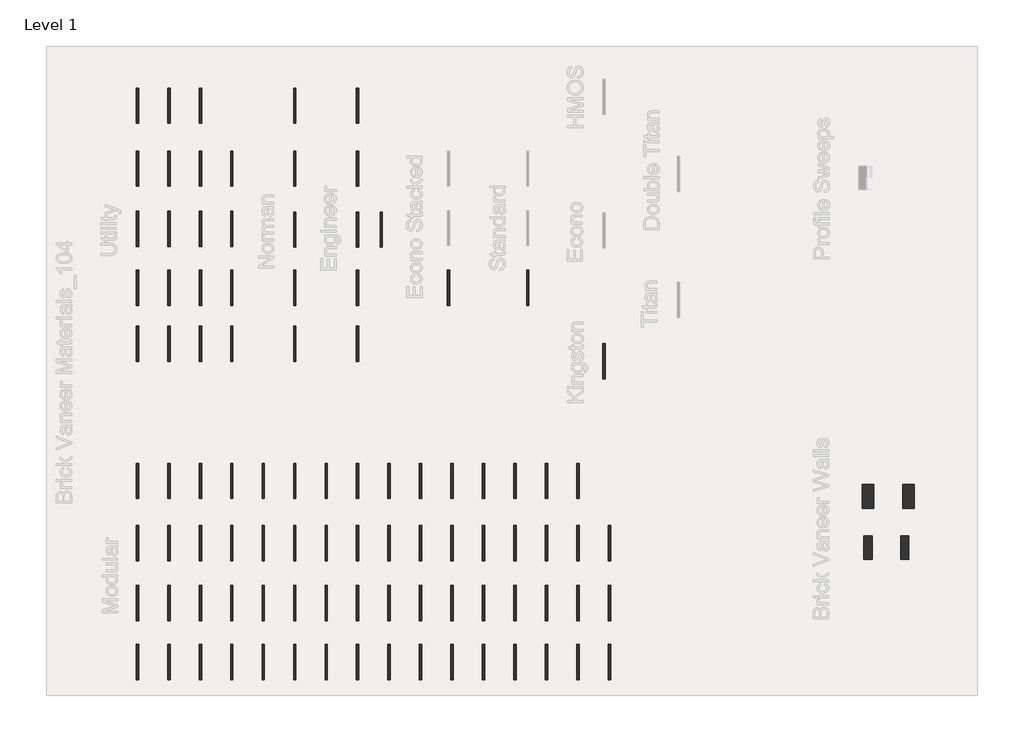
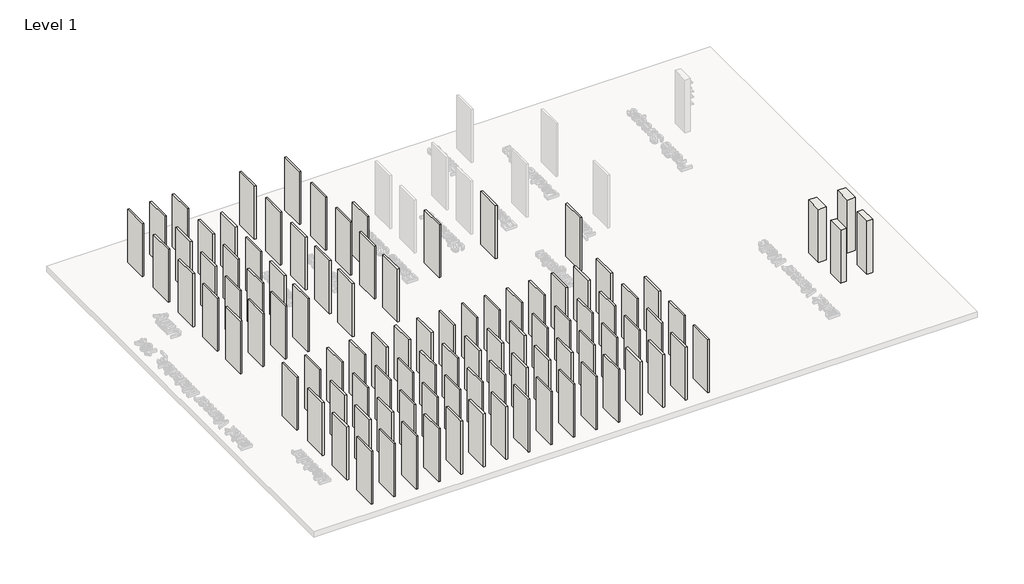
# One storey, part 1 of 6: 100 walls.
"""IFC4 building model written with IfcOpenShell, lengths in millimetres."""

from ifc_helpers import new_model, si_unit, origin, origin_with_axes, place, context, project, spatial, polyline, outline, extrude, element, save

model = new_model("IFC4")

# Units and contexts
model_context = context("Model", 3, world=origin())
ifc_project = project(units=[si_unit("LENGTHUNIT", "METRE", prefix="MILLI")], contexts=[model_context])

# Site, building, storey
site = spatial("IfcSite", under=ifc_project)
building = spatial("IfcBuilding", under=site)
storey = spatial("IfcBuildingStorey", under=building, Name="Level 1", Elevation=0.0)

# Walls
placement = place(None, origin())
element("IfcWall", 1, ObjectType="Exterior-Wall_Brick-Veneer_on_Concrete_Glen-Gery", at=placement, inside=storey, context=model_context, shape_type="SweptSolid", body=[
    extrude(outline(polyline([(18986.1248013, -4362.0258974), (18986.1248013, -5276.4258974), (18544.7998013, -5276.4258974), (18544.7998013, -4362.0258974), (18986.1248013, -4362.0258974)])), origin_with_axes(), (0.0, 0.0, 1.0), 3048.0),
])
element("IfcWall", 2, ObjectType="Exterior-Wall_Brick-Veneer_on_CMU_Glen-Gery", at=placement, inside=storey, context=model_context, shape_type="SweptSolid", body=[
    extrude(outline(polyline([(17411.2299021, -4362.0258974), (17411.2299021, -5276.4258974), (16969.9049021, -5276.4258974), (16969.9049021, -4362.0258974), (17411.2299021, -4362.0258974)])), origin_with_axes(), (0.0, 0.0, 1.0), 3048.0),
])
element("IfcWall", 3, ObjectType="Exterior-Wall_Brick-Veneer_on_Metal-Stud_Glen-Gery", at=placement, inside=storey, context=model_context, shape_type="SweptSolid", body=[
    extrude(outline(polyline([(18780.032706, -6343.2258974), (18780.032706, -7257.6258974), (18465.707706, -7257.6258974), (18465.707706, -6343.2258974), (18780.032706, -6343.2258974)])), origin_with_axes(), (0.0, 0.0, 1.0), 3048.0),
])
element("IfcWall", 4, ObjectType="Exterior-Wall_Brick-Veneer_on_Wood-Stud_Glen-Gery", at=placement, inside=storey, context=model_context, shape_type="SweptSolid", body=[
    extrude(outline(polyline([(17347.7299021, -6343.2258974), (17347.7299021, -7257.6258974), (17033.4049021, -7257.6258974), (17033.4049021, -6343.2258974), (17347.7299021, -6343.2258974)])), origin_with_axes(), (0.0, 0.0, 1.0), 3048.0),
])
element("IfcWall", 5, ObjectType="Generic - 3 5/8\" 1", at=placement, inside=storey, context=model_context, shape_type="SweptSolid", body=[
    extrude(outline(polyline([(-11159.9757609, -11921.7943894), (-11159.9757609, -10550.1943894), (-11067.9007609, -10550.1943894), (-11067.9007609, -11921.7943894), (-11159.9757609, -11921.7943894)])), origin_with_axes(), (0.0, 0.0, 1.0), 3048.0),
])
element("IfcWall", 6, ObjectType="Generic - 3 5/8\" 10", at=placement, inside=storey, context=model_context, shape_type="SweptSolid", body=[
    extrude(outline(polyline([(-11159.9757609, 2580.0524443), (-11159.9757609, 3951.6524443), (-11067.9007609, 3951.6524443), (-11067.9007609, 2580.0524443), (-11159.9757609, 2580.0524443)])), origin_with_axes(), (0.0, 0.0, 1.0), 3048.0),
])
element("IfcWall", 7, ObjectType="Generic - 3 5/8\" 100", at=placement, inside=storey, context=model_context, shape_type="SweptSolid", body=[
    extrude(outline(polyline([(-1406.3757609, -4905.9825564), (-1406.3757609, -3534.3825564), (-1314.3007609, -3534.3825564), (-1314.3007609, -4905.9825564), (-1406.3757609, -4905.9825564)])), origin_with_axes(), (0.0, 0.0, 1.0), 3048.0),
])
element("IfcWall", 8, ObjectType="Generic - 3 5/8\" 101", at=placement, inside=storey, context=model_context, shape_type="SweptSolid", body=[
    extrude(outline(polyline([(7128.0242391, -11921.7943894), (7128.0242391, -10550.1943894), (7220.0992391, -10550.1943894), (7220.0992391, -11921.7943894), (7128.0242391, -11921.7943894)])), origin_with_axes(), (0.0, 0.0, 1.0), 3048.0),
])
element("IfcWall", 9, ObjectType="Generic - 3 5/8\" 104", at=placement, inside=storey, context=model_context, shape_type="SweptSolid", body=[
    extrude(outline(polyline([(-1711.1757609, 4838.455309), (-1711.1757609, 6210.055309), (-1619.1007609, 6210.055309), (-1619.1007609, 4838.455309), (-1711.1757609, 4838.455309)])), origin_with_axes(), (0.0, 0.0, 1.0), 3048.0),
])
element("IfcWall", 10, ObjectType="Generic - 3 5/8\" 105", at=placement, inside=storey, context=model_context, shape_type="SweptSolid", body=[
    extrude(outline(polyline([(7128.0242391, -9635.7943894), (7128.0242391, -8264.1943894), (7220.0992391, -8264.1943894), (7220.0992391, -9635.7943894), (7128.0242391, -9635.7943894)])), origin_with_axes(), (0.0, 0.0, 1.0), 3048.0),
])
element("IfcWall", 11, ObjectType="Generic - 3 5/8\" 106", at=placement, inside=storey, context=model_context, shape_type="SweptSolid", body=[
    extrude(outline(polyline([(-1406.3757609, -11921.7943894), (-1406.3757609, -10550.1943894), (-1314.3007609, -10550.1943894), (-1314.3007609, -11921.7943894), (-1406.3757609, -11921.7943894)])), origin_with_axes(), (0.0, 0.0, 1.0), 3048.0),
])
element("IfcWall", 12, ObjectType="Generic - 3 5/8\" 107", at=placement, inside=storey, context=model_context, shape_type="SweptSolid", body=[
    extrude(outline(polyline([(7220.0992391, -5951.3215347), (7220.0992391, -7322.9215347), (7128.0242391, -7322.9215347), (7128.0242391, -5951.3215347), (7220.0992391, -5951.3215347)])), origin_with_axes(), (0.0, 0.0, 1.0), 3048.0),
])
element("IfcWall", 13, ObjectType="Generic - 3 5/8\" 11", at=placement, inside=storey, context=model_context, shape_type="SweptSolid", body=[
    extrude(outline(polyline([(-11159.9757609, -4905.9825564), (-11159.9757609, -3534.3825564), (-11067.9007609, -3534.3825564), (-11067.9007609, -4905.9825564), (-11159.9757609, -4905.9825564)])), origin_with_axes(), (0.0, 0.0, 1.0), 3048.0),
])
element("IfcWall", 14, ObjectType="Generic - 3 5/8\" 12", at=placement, inside=storey, context=model_context, shape_type="SweptSolid", body=[
    extrude(outline(polyline([(-187.1757609, -11921.7943894), (-187.1757609, -10550.1943894), (-95.1007609, -10550.1943894), (-95.1007609, -11921.7943894), (-187.1757609, -11921.7943894)])), origin_with_axes(), (0.0, 0.0, 1.0), 3048.0),
])
element("IfcWall", 15, ObjectType="Generic - 3 5/8\" 13", at=placement, inside=storey, context=model_context, shape_type="SweptSolid", body=[
    extrude(outline(polyline([(-187.1757609, -9635.7943894), (-187.1757609, -8264.1943894), (-95.1007609, -8264.1943894), (-95.1007609, -9635.7943894), (-187.1757609, -9635.7943894)])), origin_with_axes(), (0.0, 0.0, 1.0), 3048.0),
])
element("IfcWall", 16, ObjectType="Generic - 3 5/8\" 14", at=placement, inside=storey, context=model_context, shape_type="SweptSolid", body=[
    extrude(outline(polyline([(-187.1757609, -7322.9215347), (-187.1757609, -5951.3215347), (-95.1007609, -5951.3215347), (-95.1007609, -7322.9215347), (-187.1757609, -7322.9215347)])), origin_with_axes(), (0.0, 0.0, 1.0), 3048.0),
])
element("IfcWall", 17, ObjectType="Generic - 3 5/8\" 15", at=placement, inside=storey, context=model_context, shape_type="SweptSolid", body=[
    extrude(outline(polyline([(-9940.7757609, -11921.7943894), (-9940.7757609, -10550.1943894), (-9848.7007609, -10550.1943894), (-9848.7007609, -11921.7943894), (-9940.7757609, -11921.7943894)])), origin_with_axes(), (0.0, 0.0, 1.0), 3048.0),
])
element("IfcWall", 18, ObjectType="Generic - 3 5/8\" 16", at=placement, inside=storey, context=model_context, shape_type="SweptSolid", body=[
    extrude(outline(polyline([(-9940.7757609, -9635.7943894), (-9940.7757609, -8264.1943894), (-9848.7007609, -8264.1943894), (-9848.7007609, -9635.7943894), (-9940.7757609, -9635.7943894)])), origin_with_axes(), (0.0, 0.0, 1.0), 3048.0),
])
element("IfcWall", 19, ObjectType="Generic - 3 5/8\" 17", at=placement, inside=storey, context=model_context, shape_type="SweptSolid", body=[
    extrude(outline(polyline([(-9940.7757609, -7322.9215347), (-9940.7757609, -5951.3215347), (-9848.7007609, -5951.3215347), (-9848.7007609, -7322.9215347), (-9940.7757609, -7322.9215347)])), origin_with_axes(), (0.0, 0.0, 1.0), 3048.0),
])
element("IfcWall", 20, ObjectType="Generic - 3 5/8\" 19", at=placement, inside=storey, context=model_context, shape_type="SweptSolid", body=[
    extrude(outline(polyline([(-11159.9757609, 4866.0524443), (-11159.9757609, 6237.6524443), (-11067.9007609, 6237.6524443), (-11067.9007609, 4866.0524443), (-11159.9757609, 4866.0524443)])), origin_with_axes(), (0.0, 0.0, 1.0), 3048.0),
])
element("IfcWall", 21, ObjectType="Generic - 3 5/8\" 20", at=placement, inside=storey, context=model_context, shape_type="SweptSolid", body=[
    extrude(outline(polyline([(-11159.9757609, 7202.8524443), (-11159.9757609, 8574.4524443), (-11067.9007609, 8574.4524443), (-11067.9007609, 7202.8524443), (-11159.9757609, 7202.8524443)])), origin_with_axes(), (0.0, 0.0, 1.0), 3048.0),
])
element("IfcWall", 22, ObjectType="Generic - 3 5/8\" 21", at=placement, inside=storey, context=model_context, shape_type="SweptSolid", body=[
    extrude(outline(polyline([(-9940.7757609, -4905.9825564), (-9940.7757609, -3534.3825564), (-9848.7007609, -3534.3825564), (-9848.7007609, -4905.9825564), (-9940.7757609, -4905.9825564)])), origin_with_axes(), (0.0, 0.0, 1.0), 3048.0),
])
element("IfcWall", 23, ObjectType="Generic - 3 5/8\" 22", at=placement, inside=storey, context=model_context, shape_type="SweptSolid", body=[
    extrude(outline(polyline([(-11159.9757609, 9641.2524443), (-11159.9757609, 11012.8524443), (-11067.9007609, 11012.8524443), (-11067.9007609, 9641.2524443), (-11159.9757609, 9641.2524443)])), origin_with_axes(), (0.0, 0.0, 1.0), 3048.0),
])
element("IfcWall", 24, ObjectType="Generic - 3 5/8\" 23", at=placement, inside=storey, context=model_context, shape_type="SweptSolid", body=[
    extrude(outline(polyline([(-187.1757609, -4905.9825564), (-187.1757609, -3534.3825564), (-95.1007609, -3534.3825564), (-95.1007609, -4905.9825564), (-187.1757609, -4905.9825564)])), origin_with_axes(), (0.0, 0.0, 1.0), 3048.0),
])
element("IfcWall", 25, ObjectType="Generic - 3 5/8\" 24", at=placement, inside=storey, context=model_context, shape_type="SweptSolid", body=[
    extrude(outline(polyline([(1032.0242391, -11921.7943894), (1032.0242391, -10550.1943894), (1124.0992391, -10550.1943894), (1124.0992391, -11921.7943894), (1032.0242391, -11921.7943894)])), origin_with_axes(), (0.0, 0.0, 1.0), 3048.0),
])
element("IfcWall", 26, ObjectType="Generic - 3 5/8\" 25", at=placement, inside=storey, context=model_context, shape_type="SweptSolid", body=[
    extrude(outline(polyline([(-9940.7757609, 406.4082086), (-9940.7757609, 1778.0082086), (-9848.7007609, 1778.0082086), (-9848.7007609, 406.4082086), (-9940.7757609, 406.4082086)])), origin_with_axes(), (0.0, 0.0, 1.0), 3048.0),
])
element("IfcWall", 27, ObjectType="Generic - 3 5/8\" 28", at=placement, inside=storey, context=model_context, shape_type="SweptSolid", body=[
    extrude(outline(polyline([(1032.0242391, -9635.7943894), (1032.0242391, -8264.1943894), (1124.0992391, -8264.1943894), (1124.0992391, -9635.7943894), (1032.0242391, -9635.7943894)])), origin_with_axes(), (0.0, 0.0, 1.0), 3048.0),
])
element("IfcWall", 28, ObjectType="Generic - 3 5/8\" 29", at=placement, inside=storey, context=model_context, shape_type="SweptSolid", body=[
    extrude(outline(polyline([(-5063.9757609, 2580.0524443), (-5063.9757609, 3951.6524443), (-4971.9007609, 3951.6524443), (-4971.9007609, 2580.0524443), (-5063.9757609, 2580.0524443)])), origin_with_axes(), (0.0, 0.0, 1.0), 3048.0),
])
element("IfcWall", 29, ObjectType="Generic - 3 5/8\" 3", at=placement, inside=storey, context=model_context, shape_type="SweptSolid", body=[
    extrude(outline(polyline([(3963.9464389, 2580.0524443), (3963.9464389, 3951.6524443), (4056.0214389, 3951.6524443), (4056.0214389, 2580.0524443), (3963.9464389, 2580.0524443)])), origin_with_axes(), (0.0, 0.0, 1.0), 3048.0),
])
element("IfcWall", 30, ObjectType="Generic - 3 5/8\" 30", at=placement, inside=storey, context=model_context, shape_type="SweptSolid", body=[
    extrude(outline(polyline([(-8721.5757609, -11921.7943894), (-8721.5757609, -10550.1943894), (-8629.5007609, -10550.1943894), (-8629.5007609, -11921.7943894), (-8721.5757609, -11921.7943894)])), origin_with_axes(), (0.0, 0.0, 1.0), 3048.0),
])
element("IfcWall", 31, ObjectType="Generic - 3 5/8\" 31", at=placement, inside=storey, context=model_context, shape_type="SweptSolid", body=[
    extrude(outline(polyline([(-8721.5757609, -9635.7943894), (-8721.5757609, -8264.1943894), (-8629.5007609, -8264.1943894), (-8629.5007609, -9635.7943894), (-8721.5757609, -9635.7943894)])), origin_with_axes(), (0.0, 0.0, 1.0), 3048.0),
])
element("IfcWall", 32, ObjectType="Generic - 3 5/8\" 32", at=placement, inside=storey, context=model_context, shape_type="SweptSolid", body=[
    extrude(outline(polyline([(-8721.5757609, -7322.9215347), (-8721.5757609, -5951.3215347), (-8629.5007609, -5951.3215347), (-8629.5007609, -7322.9215347), (-8721.5757609, -7322.9215347)])), origin_with_axes(), (0.0, 0.0, 1.0), 3048.0),
])
element("IfcWall", 33, ObjectType="Generic - 3 5/8\" 33", at=placement, inside=storey, context=model_context, shape_type="SweptSolid", body=[
    extrude(outline(polyline([(-5063.9757609, 4838.455309), (-5063.9757609, 6210.055309), (-4971.9007609, 6210.055309), (-4971.9007609, 4838.455309), (-5063.9757609, 4838.455309)])), origin_with_axes(), (0.0, 0.0, 1.0), 3048.0),
])
element("IfcWall", 34, ObjectType="Generic - 3 5/8\" 34", at=placement, inside=storey, context=model_context, shape_type="SweptSolid", body=[
    extrude(outline(polyline([(-5063.9757609, 7202.8524443), (-5063.9757609, 8574.4524443), (-4971.9007609, 8574.4524443), (-4971.9007609, 7202.8524443), (-5063.9757609, 7202.8524443)])), origin_with_axes(), (0.0, 0.0, 1.0), 3048.0),
])
element("IfcWall", 35, ObjectType="Generic - 3 5/8\" 35", at=placement, inside=storey, context=model_context, shape_type="SweptSolid", body=[
    extrude(outline(polyline([(-8721.5757609, -4905.9825564), (-8721.5757609, -3534.3825564), (-8629.5007609, -3534.3825564), (-8629.5007609, -4905.9825564), (-8721.5757609, -4905.9825564)])), origin_with_axes(), (0.0, 0.0, 1.0), 3048.0),
])
element("IfcWall", 36, ObjectType="Generic - 3 5/8\" 36", at=placement, inside=storey, context=model_context, shape_type="SweptSolid", body=[
    extrude(outline(polyline([(1032.0242391, -7322.9215347), (1032.0242391, -5951.3215347), (1124.0992391, -5951.3215347), (1124.0992391, -7322.9215347), (1032.0242391, -7322.9215347)])), origin_with_axes(), (0.0, 0.0, 1.0), 3048.0),
])
element("IfcWall", 37, ObjectType="Generic - 3 5/8\" 37", at=placement, inside=storey, context=model_context, shape_type="SweptSolid", body=[
    extrude(outline(polyline([(-9940.7757609, 2580.0524443), (-9940.7757609, 3951.6524443), (-9848.7007609, 3951.6524443), (-9848.7007609, 2580.0524443), (-9940.7757609, 2580.0524443)])), origin_with_axes(), (0.0, 0.0, 1.0), 3048.0),
])
element("IfcWall", 38, ObjectType="Generic - 3 5/8\" 38", at=placement, inside=storey, context=model_context, shape_type="SweptSolid", body=[
    extrude(outline(polyline([(1032.0242391, -4905.9825564), (1032.0242391, -3534.3825564), (1124.0992391, -3534.3825564), (1124.0992391, -4905.9825564), (1032.0242391, -4905.9825564)])), origin_with_axes(), (0.0, 0.0, 1.0), 3048.0),
])
element("IfcWall", 39, ObjectType="Generic - 3 5/8\" 39", at=placement, inside=storey, context=model_context, shape_type="SweptSolid", body=[
    extrude(outline(polyline([(-9940.7757609, 4866.0524443), (-9940.7757609, 6237.6524443), (-9848.7007609, 6237.6524443), (-9848.7007609, 4866.0524443), (-9940.7757609, 4866.0524443)])), origin_with_axes(), (0.0, 0.0, 1.0), 3048.0),
])
element("IfcWall", 40, ObjectType="Generic - 3 5/8\" 4", at=placement, inside=storey, context=model_context, shape_type="SweptSolid", body=[
    extrude(outline(polyline([(-5063.9757609, 406.4082086), (-5063.9757609, 1778.0082086), (-4971.9007609, 1778.0082086), (-4971.9007609, 406.4082086), (-5063.9757609, 406.4082086)])), origin_with_axes(), (0.0, 0.0, 1.0), 3048.0),
])
element("IfcWall", 41, ObjectType="Generic - 3 5/8\" 40", at=placement, inside=storey, context=model_context, shape_type="SweptSolid", body=[
    extrude(outline(polyline([(2251.2242391, -11921.7943894), (2251.2242391, -10550.1943894), (2343.2992391, -10550.1943894), (2343.2992391, -11921.7943894), (2251.2242391, -11921.7943894)])), origin_with_axes(), (0.0, 0.0, 1.0), 3048.0),
])
element("IfcWall", 42, ObjectType="Generic - 3 5/8\" 41", at=placement, inside=storey, context=model_context, shape_type="SweptSolid", body=[
    extrude(outline(polyline([(-7502.3757609, -7322.9215347), (-7502.3757609, -5951.3215347), (-7410.3007609, -5951.3215347), (-7410.3007609, -7322.9215347), (-7502.3757609, -7322.9215347)])), origin_with_axes(), (0.0, 0.0, 1.0), 3048.0),
])
element("IfcWall", 43, ObjectType="Generic - 3 5/8\" 42", at=placement, inside=storey, context=model_context, shape_type="SweptSolid", body=[
    extrude(outline(polyline([(-2625.5757609, 406.4082086), (-2625.5757609, 1778.0082086), (-2533.5007609, 1778.0082086), (-2533.5007609, 406.4082086), (-2625.5757609, 406.4082086)])), origin_with_axes(), (0.0, 0.0, 1.0), 3048.0),
])
element("IfcWall", 44, ObjectType="Generic - 3 5/8\" 43", at=placement, inside=storey, context=model_context, shape_type="SweptSolid", body=[
    extrude(outline(polyline([(-2625.5757609, 2580.0524443), (-2625.5757609, 3951.6524443), (-2533.5007609, 3951.6524443), (-2533.5007609, 2580.0524443), (-2625.5757609, 2580.0524443)])), origin_with_axes(), (0.0, 0.0, 1.0), 3048.0),
])
element("IfcWall", 45, ObjectType="Generic - 3 5/8\" 46", at=placement, inside=storey, context=model_context, shape_type="SweptSolid", body=[
    extrude(outline(polyline([(-7502.3757609, -11921.7943894), (-7502.3757609, -10550.1943894), (-7410.3007609, -10550.1943894), (-7410.3007609, -11921.7943894), (-7502.3757609, -11921.7943894)])), origin_with_axes(), (0.0, 0.0, 1.0), 3048.0),
])
element("IfcWall", 46, ObjectType="Generic - 3 5/8\" 47", at=placement, inside=storey, context=model_context, shape_type="SweptSolid", body=[
    extrude(outline(polyline([(-5063.9757609, 9641.2524443), (-5063.9757609, 11012.8524443), (-4971.9007609, 11012.8524443), (-4971.9007609, 9641.2524443), (-5063.9757609, 9641.2524443)])), origin_with_axes(), (0.0, 0.0, 1.0), 3048.0),
])
element("IfcWall", 47, ObjectType="Generic - 3 5/8\" 48", at=placement, inside=storey, context=model_context, shape_type="SweptSolid", body=[
    extrude(outline(polyline([(-7502.3757609, -9635.7943894), (-7502.3757609, -8264.1943894), (-7410.3007609, -8264.1943894), (-7410.3007609, -9635.7943894), (-7502.3757609, -9635.7943894)])), origin_with_axes(), (0.0, 0.0, 1.0), 3048.0),
])
element("IfcWall", 48, ObjectType="Generic - 3 5/8\" 49", at=placement, inside=storey, context=model_context, shape_type="SweptSolid", body=[
    extrude(outline(polyline([(-7502.3757609, -4905.9825564), (-7502.3757609, -3534.3825564), (-7410.3007609, -3534.3825564), (-7410.3007609, -4905.9825564), (-7502.3757609, -4905.9825564)])), origin_with_axes(), (0.0, 0.0, 1.0), 3048.0),
])
element("IfcWall", 49, ObjectType="Generic - 3 5/8\" 5", at=placement, inside=storey, context=model_context, shape_type="SweptSolid", body=[
    extrude(outline(polyline([(897.9646667, 2580.0524443), (897.9646667, 3951.6524443), (990.0396667, 3951.6524443), (990.0396667, 2580.0524443), (897.9646667, 2580.0524443)])), origin_with_axes(), (0.0, 0.0, 1.0), 3048.0),
])
element("IfcWall", 50, ObjectType="Generic - 3 5/8\" 50", at=placement, inside=storey, context=model_context, shape_type="SweptSolid", body=[
    extrude(outline(polyline([(2251.2242391, -9635.7943894), (2251.2242391, -8264.1943894), (2343.2992391, -8264.1943894), (2343.2992391, -9635.7943894), (2251.2242391, -9635.7943894)])), origin_with_axes(), (0.0, 0.0, 1.0), 3048.0),
])
element("IfcWall", 51, ObjectType="Generic - 3 5/8\" 51", at=placement, inside=storey, context=model_context, shape_type="SweptSolid", body=[
    extrude(outline(polyline([(6924.8242391, -271.4806422), (6924.8242391, 1100.1193578), (7016.8992391, 1100.1193578), (7016.8992391, -271.4806422), (6924.8242391, -271.4806422)])), origin_with_axes(), (0.0, 0.0, 1.0), 3048.0),
])
element("IfcWall", 52, ObjectType="Generic - 3 5/8\" 52", at=placement, inside=storey, context=model_context, shape_type="SweptSolid", body=[
    extrude(outline(polyline([(-9940.7757609, 7202.8524443), (-9940.7757609, 8574.4524443), (-9848.7007609, 8574.4524443), (-9848.7007609, 7202.8524443), (-9940.7757609, 7202.8524443)])), origin_with_axes(), (0.0, 0.0, 1.0), 3048.0),
])
element("IfcWall", 53, ObjectType="Generic - 3 5/8\" 53", at=placement, inside=storey, context=model_context, shape_type="SweptSolid", body=[
    extrude(outline(polyline([(2251.2242391, -7322.9215347), (2251.2242391, -5951.3215347), (2343.2992391, -5951.3215347), (2343.2992391, -7322.9215347), (2251.2242391, -7322.9215347)])), origin_with_axes(), (0.0, 0.0, 1.0), 3048.0),
])
element("IfcWall", 54, ObjectType="Generic - 3 5/8\" 54", at=placement, inside=storey, context=model_context, shape_type="SweptSolid", body=[
    extrude(outline(polyline([(2251.2242391, -4905.9825564), (2251.2242391, -3534.3825564), (2343.2992391, -3534.3825564), (2343.2992391, -4905.9825564), (2251.2242391, -4905.9825564)])), origin_with_axes(), (0.0, 0.0, 1.0), 3048.0),
])
element("IfcWall", 55, ObjectType="Generic - 3 5/8\" 55", at=placement, inside=storey, context=model_context, shape_type="SweptSolid", body=[
    extrude(outline(polyline([(-6283.1757609, -7322.9215347), (-6283.1757609, -5951.3215347), (-6191.1007609, -5951.3215347), (-6191.1007609, -7322.9215347), (-6283.1757609, -7322.9215347)])), origin_with_axes(), (0.0, 0.0, 1.0), 3048.0),
])
element("IfcWall", 56, ObjectType="Generic - 3 5/8\" 56", at=placement, inside=storey, context=model_context, shape_type="SweptSolid", body=[
    extrude(outline(polyline([(-6283.1757609, -4905.9825564), (-6283.1757609, -3534.3825564), (-6191.1007609, -3534.3825564), (-6191.1007609, -4905.9825564), (-6283.1757609, -4905.9825564)])), origin_with_axes(), (0.0, 0.0, 1.0), 3048.0),
])
element("IfcWall", 57, ObjectType="Generic - 3 5/8\" 57", at=placement, inside=storey, context=model_context, shape_type="SweptSolid", body=[
    extrude(outline(polyline([(-9940.7757609, 9641.2524443), (-9940.7757609, 11012.8524443), (-9848.7007609, 11012.8524443), (-9848.7007609, 9641.2524443), (-9940.7757609, 9641.2524443)])), origin_with_axes(), (0.0, 0.0, 1.0), 3048.0),
])
element("IfcWall", 58, ObjectType="Generic - 3 5/8\" 58", at=placement, inside=storey, context=model_context, shape_type="SweptSolid", body=[
    extrude(outline(polyline([(-6283.1757609, -11921.7943894), (-6283.1757609, -10550.1943894), (-6191.1007609, -10550.1943894), (-6191.1007609, -11921.7943894), (-6283.1757609, -11921.7943894)])), origin_with_axes(), (0.0, 0.0, 1.0), 3048.0),
])
element("IfcWall", 59, ObjectType="Generic - 3 5/8\" 59", at=placement, inside=storey, context=model_context, shape_type="SweptSolid", body=[
    extrude(outline(polyline([(-6283.1757609, -9635.7943894), (-6283.1757609, -8264.1943894), (-6191.1007609, -8264.1943894), (-6191.1007609, -9635.7943894), (-6283.1757609, -9635.7943894)])), origin_with_axes(), (0.0, 0.0, 1.0), 3048.0),
])
element("IfcWall", 60, ObjectType="Generic - 3 5/8\" 6", at=placement, inside=storey, context=model_context, shape_type="SweptSolid", body=[
    extrude(outline(polyline([(-11159.9757609, -9635.7943894), (-11159.9757609, -8264.1943894), (-11067.9007609, -8264.1943894), (-11067.9007609, -9635.7943894), (-11159.9757609, -9635.7943894)])), origin_with_axes(), (0.0, 0.0, 1.0), 3048.0),
])
element("IfcWall", 61, ObjectType="Generic - 3 5/8\" 60", at=placement, inside=storey, context=model_context, shape_type="SweptSolid", body=[
    extrude(outline(polyline([(3470.4242391, -11921.7943894), (3470.4242391, -10550.1943894), (3562.4992391, -10550.1943894), (3562.4992391, -11921.7943894), (3470.4242391, -11921.7943894)])), origin_with_axes(), (0.0, 0.0, 1.0), 3048.0),
])
element("IfcWall", 62, ObjectType="Generic - 3 5/8\" 61", at=placement, inside=storey, context=model_context, shape_type="SweptSolid", body=[
    extrude(outline(polyline([(3470.4242391, -9635.7943894), (3470.4242391, -8264.1943894), (3562.4992391, -8264.1943894), (3562.4992391, -9635.7943894), (3470.4242391, -9635.7943894)])), origin_with_axes(), (0.0, 0.0, 1.0), 3048.0),
])
element("IfcWall", 63, ObjectType="Generic - 3 5/8\" 62", at=placement, inside=storey, context=model_context, shape_type="SweptSolid", body=[
    extrude(outline(polyline([(3470.4242391, -4905.9825564), (3470.4242391, -3534.3825564), (3562.4992391, -3534.3825564), (3562.4992391, -4905.9825564), (3470.4242391, -4905.9825564)])), origin_with_axes(), (0.0, 0.0, 1.0), 3048.0),
])
element("IfcWall", 64, ObjectType="Generic - 3 5/8\" 63", at=placement, inside=storey, context=model_context, shape_type="SweptSolid", body=[
    extrude(outline(polyline([(-5063.9757609, -9635.7943894), (-5063.9757609, -8264.1943894), (-4971.9007609, -8264.1943894), (-4971.9007609, -9635.7943894), (-5063.9757609, -9635.7943894)])), origin_with_axes(), (0.0, 0.0, 1.0), 3048.0),
])
element("IfcWall", 65, ObjectType="Generic - 3 5/8\" 65", at=placement, inside=storey, context=model_context, shape_type="SweptSolid", body=[
    extrude(outline(polyline([(-5063.9757609, -7322.9215347), (-5063.9757609, -5951.3215347), (-4971.9007609, -5951.3215347), (-4971.9007609, -7322.9215347), (-5063.9757609, -7322.9215347)])), origin_with_axes(), (0.0, 0.0, 1.0), 3048.0),
])
element("IfcWall", 66, ObjectType="Generic - 3 5/8\" 66", at=placement, inside=storey, context=model_context, shape_type="SweptSolid", body=[
    extrude(outline(polyline([(-5063.9757609, -4905.9825564), (-5063.9757609, -3534.3825564), (-4971.9007609, -3534.3825564), (-4971.9007609, -4905.9825564), (-5063.9757609, -4905.9825564)])), origin_with_axes(), (0.0, 0.0, 1.0), 3048.0),
])
element("IfcWall", 67, ObjectType="Generic - 3 5/8\" 67", at=placement, inside=storey, context=model_context, shape_type="SweptSolid", body=[
    extrude(outline(polyline([(3470.4242391, -7322.9215347), (3470.4242391, -5951.3215347), (3562.4992391, -5951.3215347), (3562.4992391, -7322.9215347), (3470.4242391, -7322.9215347)])), origin_with_axes(), (0.0, 0.0, 1.0), 3048.0),
])
element("IfcWall", 68, ObjectType="Generic - 3 5/8\" 68", at=placement, inside=storey, context=model_context, shape_type="SweptSolid", body=[
    extrude(outline(polyline([(-5063.9757609, -11921.7943894), (-5063.9757609, -10550.1943894), (-4971.9007609, -10550.1943894), (-4971.9007609, -11921.7943894), (-5063.9757609, -11921.7943894)])), origin_with_axes(), (0.0, 0.0, 1.0), 3048.0),
])
element("IfcWall", 69, ObjectType="Generic - 3 5/8\" 69", at=placement, inside=storey, context=model_context, shape_type="SweptSolid", body=[
    extrude(outline(polyline([(-8721.5757609, 406.4082086), (-8721.5757609, 1778.0082086), (-8629.5007609, 1778.0082086), (-8629.5007609, 406.4082086), (-8721.5757609, 406.4082086)])), origin_with_axes(), (0.0, 0.0, 1.0), 3048.0),
])
element("IfcWall", 70, ObjectType="Generic - 3 5/8\" 7", at=placement, inside=storey, context=model_context, shape_type="SweptSolid", body=[
    extrude(outline(polyline([(-11159.9757609, 406.4082086), (-11159.9757609, 1778.0082086), (-11067.9007609, 1778.0082086), (-11067.9007609, 406.4082086), (-11159.9757609, 406.4082086)])), origin_with_axes(), (0.0, 0.0, 1.0), 3048.0),
])
element("IfcWall", 71, ObjectType="Generic - 3 5/8\" 70", at=placement, inside=storey, context=model_context, shape_type="SweptSolid", body=[
    extrude(outline(polyline([(-8721.5757609, 2580.0524443), (-8721.5757609, 3951.6524443), (-8629.5007609, 3951.6524443), (-8629.5007609, 2580.0524443), (-8721.5757609, 2580.0524443)])), origin_with_axes(), (0.0, 0.0, 1.0), 3048.0),
])
element("IfcWall", 72, ObjectType="Generic - 3 5/8\" 71", at=placement, inside=storey, context=model_context, shape_type="SweptSolid", body=[
    extrude(outline(polyline([(4689.6242391, -11921.7943894), (4689.6242391, -10550.1943894), (4781.6992391, -10550.1943894), (4781.6992391, -11921.7943894), (4689.6242391, -11921.7943894)])), origin_with_axes(), (0.0, 0.0, 1.0), 3048.0),
])
element("IfcWall", 73, ObjectType="Generic - 3 5/8\" 72", at=placement, inside=storey, context=model_context, shape_type="SweptSolid", body=[
    extrude(outline(polyline([(4689.6242391, -9635.7943894), (4689.6242391, -8264.1943894), (4781.6992391, -8264.1943894), (4781.6992391, -9635.7943894), (4689.6242391, -9635.7943894)])), origin_with_axes(), (0.0, 0.0, 1.0), 3048.0),
])
element("IfcWall", 74, ObjectType="Generic - 3 5/8\" 73", at=placement, inside=storey, context=model_context, shape_type="SweptSolid", body=[
    extrude(outline(polyline([(-3844.7757609, -9635.7943894), (-3844.7757609, -8264.1943894), (-3752.7007609, -8264.1943894), (-3752.7007609, -9635.7943894), (-3844.7757609, -9635.7943894)])), origin_with_axes(), (0.0, 0.0, 1.0), 3048.0),
])
element("IfcWall", 75, ObjectType="Generic - 3 5/8\" 74", at=placement, inside=storey, context=model_context, shape_type="SweptSolid", body=[
    extrude(outline(polyline([(-8721.5757609, 4866.0524443), (-8721.5757609, 6237.6524443), (-8629.5007609, 6237.6524443), (-8629.5007609, 4866.0524443), (-8721.5757609, 4866.0524443)])), origin_with_axes(), (0.0, 0.0, 1.0), 3048.0),
])
element("IfcWall", 76, ObjectType="Generic - 3 5/8\" 75", at=placement, inside=storey, context=model_context, shape_type="SweptSolid", body=[
    extrude(outline(polyline([(-2625.5757609, 4838.455309), (-2625.5757609, 6210.055309), (-2533.5007609, 6210.055309), (-2533.5007609, 4838.455309), (-2625.5757609, 4838.455309)])), origin_with_axes(), (0.0, 0.0, 1.0), 3048.0),
])
element("IfcWall", 77, ObjectType="Generic - 3 5/8\" 76", at=placement, inside=storey, context=model_context, shape_type="SweptSolid", body=[
    extrude(outline(polyline([(-8721.5757609, 7202.8524443), (-8721.5757609, 8574.4524443), (-8629.5007609, 8574.4524443), (-8629.5007609, 7202.8524443), (-8721.5757609, 7202.8524443)])), origin_with_axes(), (0.0, 0.0, 1.0), 3048.0),
])
element("IfcWall", 78, ObjectType="Generic - 3 5/8\" 77", at=placement, inside=storey, context=model_context, shape_type="SweptSolid", body=[
    extrude(outline(polyline([(-3844.7757609, -7322.9215347), (-3844.7757609, -5951.3215347), (-3752.7007609, -5951.3215347), (-3752.7007609, -7322.9215347), (-3844.7757609, -7322.9215347)])), origin_with_axes(), (0.0, 0.0, 1.0), 3048.0),
])
element("IfcWall", 79, ObjectType="Generic - 3 5/8\" 78", at=placement, inside=storey, context=model_context, shape_type="SweptSolid", body=[
    extrude(outline(polyline([(-2625.5757609, 7202.8524443), (-2625.5757609, 8574.4524443), (-2533.5007609, 8574.4524443), (-2533.5007609, 7202.8524443), (-2625.5757609, 7202.8524443)])), origin_with_axes(), (0.0, 0.0, 1.0), 3048.0),
])
element("IfcWall", 80, ObjectType="Generic - 3 5/8\" 79", at=placement, inside=storey, context=model_context, shape_type="SweptSolid", body=[
    extrude(outline(polyline([(-2625.5757609, 9641.2524443), (-2625.5757609, 11012.8524443), (-2533.5007609, 11012.8524443), (-2533.5007609, 9641.2524443), (-2625.5757609, 9641.2524443)])), origin_with_axes(), (0.0, 0.0, 1.0), 3048.0),
])
element("IfcWall", 81, ObjectType="Generic - 3 5/8\" 80", at=placement, inside=storey, context=model_context, shape_type="SweptSolid", body=[
    extrude(outline(polyline([(-8721.5757609, 9641.2524443), (-8721.5757609, 11012.8524443), (-8629.5007609, 11012.8524443), (-8629.5007609, 9641.2524443), (-8721.5757609, 9641.2524443)])), origin_with_axes(), (0.0, 0.0, 1.0), 3048.0),
])
element("IfcWall", 82, ObjectType="Generic - 3 5/8\" 81", at=placement, inside=storey, context=model_context, shape_type="SweptSolid", body=[
    extrude(outline(polyline([(-3844.7757609, -4905.9825564), (-3844.7757609, -3534.3825564), (-3752.7007609, -3534.3825564), (-3752.7007609, -4905.9825564), (-3844.7757609, -4905.9825564)])), origin_with_axes(), (0.0, 0.0, 1.0), 3048.0),
])
element("IfcWall", 83, ObjectType="Generic - 3 5/8\" 82", at=placement, inside=storey, context=model_context, shape_type="SweptSolid", body=[
    extrude(outline(polyline([(4689.6242391, -7322.9215347), (4689.6242391, -5951.3215347), (4781.6992391, -5951.3215347), (4781.6992391, -7322.9215347), (4689.6242391, -7322.9215347)])), origin_with_axes(), (0.0, 0.0, 1.0), 3048.0),
])
element("IfcWall", 84, ObjectType="Generic - 3 5/8\" 83", at=placement, inside=storey, context=model_context, shape_type="SweptSolid", body=[
    extrude(outline(polyline([(-7502.3757609, 406.4082086), (-7502.3757609, 1778.0082086), (-7410.3007609, 1778.0082086), (-7410.3007609, 406.4082086), (-7502.3757609, 406.4082086)])), origin_with_axes(), (0.0, 0.0, 1.0), 3048.0),
])
element("IfcWall", 85, ObjectType="Generic - 3 5/8\" 84", at=placement, inside=storey, context=model_context, shape_type="SweptSolid", body=[
    extrude(outline(polyline([(-7502.3757609, 2580.0524443), (-7502.3757609, 3951.6524443), (-7410.3007609, 3951.6524443), (-7410.3007609, 2580.0524443), (-7502.3757609, 2580.0524443)])), origin_with_axes(), (0.0, 0.0, 1.0), 3048.0),
])
element("IfcWall", 86, ObjectType="Generic - 3 5/8\" 85", at=placement, inside=storey, context=model_context, shape_type="SweptSolid", body=[
    extrude(outline(polyline([(-7502.3757609, 4866.0524443), (-7502.3757609, 6237.6524443), (-7410.3007609, 6237.6524443), (-7410.3007609, 4866.0524443), (-7502.3757609, 4866.0524443)])), origin_with_axes(), (0.0, 0.0, 1.0), 3048.0),
])
element("IfcWall", 87, ObjectType="Generic - 3 5/8\" 86", at=placement, inside=storey, context=model_context, shape_type="SweptSolid", body=[
    extrude(outline(polyline([(4689.6242391, -4905.9825564), (4689.6242391, -3534.3825564), (4781.6992391, -3534.3825564), (4781.6992391, -4905.9825564), (4689.6242391, -4905.9825564)])), origin_with_axes(), (0.0, 0.0, 1.0), 3048.0),
])
element("IfcWall", 88, ObjectType="Generic - 3 5/8\" 87", at=placement, inside=storey, context=model_context, shape_type="SweptSolid", body=[
    extrude(outline(polyline([(-3844.7757609, -11921.7943894), (-3844.7757609, -10550.1943894), (-3752.7007609, -10550.1943894), (-3752.7007609, -11921.7943894), (-3844.7757609, -11921.7943894)])), origin_with_axes(), (0.0, 0.0, 1.0), 3048.0),
])
element("IfcWall", 89, ObjectType="Generic - 3 5/8\" 88", at=placement, inside=storey, context=model_context, shape_type="SweptSolid", body=[
    extrude(outline(polyline([(5908.8242391, -11921.7943894), (5908.8242391, -10550.1943894), (6000.8992391, -10550.1943894), (6000.8992391, -11921.7943894), (5908.8242391, -11921.7943894)])), origin_with_axes(), (0.0, 0.0, 1.0), 3048.0),
])
element("IfcWall", 90, ObjectType="Generic - 3 5/8\" 89", at=placement, inside=storey, context=model_context, shape_type="SweptSolid", body=[
    extrude(outline(polyline([(-2625.5757609, -9635.7943894), (-2625.5757609, -8264.1943894), (-2533.5007609, -8264.1943894), (-2533.5007609, -9635.7943894), (-2625.5757609, -9635.7943894)])), origin_with_axes(), (0.0, 0.0, 1.0), 3048.0),
])
element("IfcWall", 91, ObjectType="Generic - 3 5/8\" 9", at=placement, inside=storey, context=model_context, shape_type="SweptSolid", body=[
    extrude(outline(polyline([(-11159.9757609, -7322.9215347), (-11159.9757609, -5951.3215347), (-11067.9007609, -5951.3215347), (-11067.9007609, -7322.9215347), (-11159.9757609, -7322.9215347)])), origin_with_axes(), (0.0, 0.0, 1.0), 3048.0),
])
element("IfcWall", 92, ObjectType="Generic - 3 5/8\" 90", at=placement, inside=storey, context=model_context, shape_type="SweptSolid", body=[
    extrude(outline(polyline([(-2625.5757609, -4905.9825564), (-2625.5757609, -3534.3825564), (-2533.5007609, -3534.3825564), (-2533.5007609, -4905.9825564), (-2625.5757609, -4905.9825564)])), origin_with_axes(), (0.0, 0.0, 1.0), 3048.0),
])
element("IfcWall", 93, ObjectType="Generic - 3 5/8\" 92", at=placement, inside=storey, context=model_context, shape_type="SweptSolid", body=[
    extrude(outline(polyline([(-7502.3757609, 7202.8524443), (-7502.3757609, 8574.4524443), (-7410.3007609, 8574.4524443), (-7410.3007609, 7202.8524443), (-7502.3757609, 7202.8524443)])), origin_with_axes(), (0.0, 0.0, 1.0), 3048.0),
])
element("IfcWall", 94, ObjectType="Generic - 3 5/8\" 93", at=placement, inside=storey, context=model_context, shape_type="SweptSolid", body=[
    extrude(outline(polyline([(5908.8242391, -9635.7943894), (5908.8242391, -8264.1943894), (6000.8992391, -8264.1943894), (6000.8992391, -9635.7943894), (5908.8242391, -9635.7943894)])), origin_with_axes(), (0.0, 0.0, 1.0), 3048.0),
])
element("IfcWall", 95, ObjectType="Generic - 3 5/8\" 94", at=placement, inside=storey, context=model_context, shape_type="SweptSolid", body=[
    extrude(outline(polyline([(5908.8242391, -7322.9215347), (5908.8242391, -5951.3215347), (6000.8992391, -5951.3215347), (6000.8992391, -7322.9215347), (5908.8242391, -7322.9215347)])), origin_with_axes(), (0.0, 0.0, 1.0), 3048.0),
])
element("IfcWall", 96, ObjectType="Generic - 3 5/8\" 95", at=placement, inside=storey, context=model_context, shape_type="SweptSolid", body=[
    extrude(outline(polyline([(5908.8242391, -4905.9825564), (5908.8242391, -3534.3825564), (6000.8992391, -3534.3825564), (6000.8992391, -4905.9825564), (5908.8242391, -4905.9825564)])), origin_with_axes(), (0.0, 0.0, 1.0), 3048.0),
])
element("IfcWall", 97, ObjectType="Generic - 3 5/8\" 96", at=placement, inside=storey, context=model_context, shape_type="SweptSolid", body=[
    extrude(outline(polyline([(-2625.5757609, -11921.7943894), (-2625.5757609, -10550.1943894), (-2533.5007609, -10550.1943894), (-2533.5007609, -11921.7943894), (-2625.5757609, -11921.7943894)])), origin_with_axes(), (0.0, 0.0, 1.0), 3048.0),
])
element("IfcWall", 98, ObjectType="Generic - 3 5/8\" 97", at=placement, inside=storey, context=model_context, shape_type="SweptSolid", body=[
    extrude(outline(polyline([(-2625.5757609, -7322.9215347), (-2625.5757609, -5951.3215347), (-2533.5007609, -5951.3215347), (-2533.5007609, -7322.9215347), (-2625.5757609, -7322.9215347)])), origin_with_axes(), (0.0, 0.0, 1.0), 3048.0),
])
element("IfcWall", 99, ObjectType="Generic - 3 5/8\" 98", at=placement, inside=storey, context=model_context, shape_type="SweptSolid", body=[
    extrude(outline(polyline([(-1406.3757609, -9635.7943894), (-1406.3757609, -8264.1943894), (-1314.3007609, -8264.1943894), (-1314.3007609, -9635.7943894), (-1406.3757609, -9635.7943894)])), origin_with_axes(), (0.0, 0.0, 1.0), 3048.0),
])
element("IfcWall", 100, ObjectType="Generic - 3 5/8\" 99", at=placement, inside=storey, context=model_context, shape_type="SweptSolid", body=[
    extrude(outline(polyline([(-1406.3757609, -7322.9215347), (-1406.3757609, -5951.3215347), (-1314.3007609, -5951.3215347), (-1314.3007609, -7322.9215347), (-1406.3757609, -7322.9215347)])), origin_with_axes(), (0.0, 0.0, 1.0), 3048.0),
])

save(model, "model.ifc")
